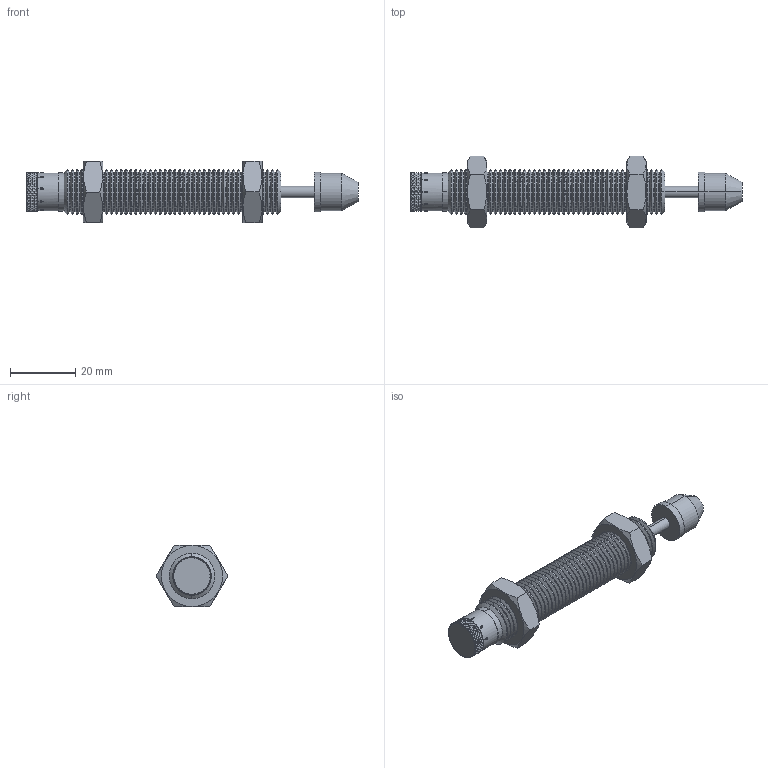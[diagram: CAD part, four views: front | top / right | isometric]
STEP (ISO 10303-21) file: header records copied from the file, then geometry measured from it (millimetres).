
FILE_DESCRIPTION (( 'STEP AP214' ), '1' );
FILE_NAME ('FC-1410.STEP', '2016-01-27T10:07:50', ( '' ), ( '' ), 'SwSTEP 2.0', 'SolidWorks 2016', '' );
FILE_SCHEMA (( 'AUTOMOTIVE_DESIGN' ));
Length unit declared in the file: millimetre
Products named in the file (5): 3; 1; 4; FC-1410; 2
Assembly tree (4 placements, depth 2):
  FC-1410
    1
    2
    3
    4
Bounding box: 101.9 x 21.93 x 19 mm (x, y, z)
Volume: 13485.5 mm3; surface area: 8361.6 mm2
Topology: 4 solids, 4 shells, 1759 faces, 3972 edges, 2387 vertices
Faces by surface type: plane 1067, cone 222, torus 204, bspline 134, cylinder 132
Entity records: 60461 total; most frequent: CARTESIAN_POINT 15020, ORIENTED_EDGE 7944, DIRECTION 6722, EDGE_CURVE 3972, AXIS2_PLACEMENT_3D 2534, VERTEX_POINT 2387, EDGE_LOOP 1929, FACE_OUTER_BOUND 1759
